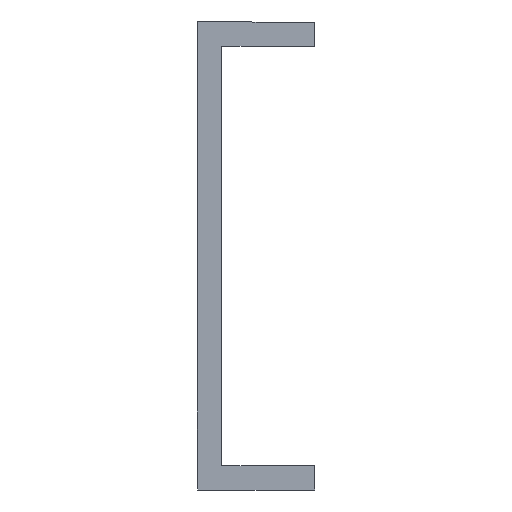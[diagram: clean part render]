
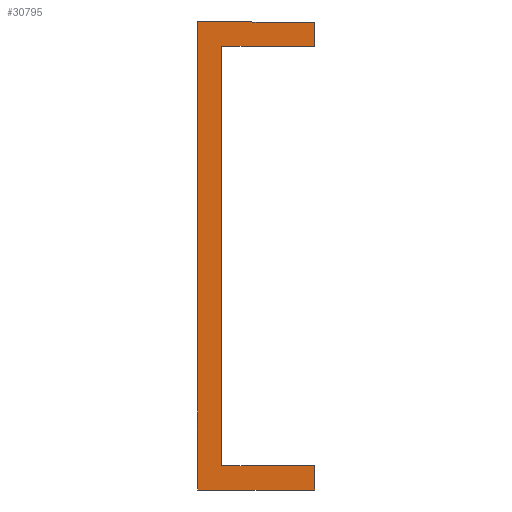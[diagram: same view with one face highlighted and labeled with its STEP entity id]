
A CAD part, front view. The second image highlights one B-rep face of the part: STEP entity #30795.
In plain terms, the highlighted planar face has unit normal (0, -1, 0).
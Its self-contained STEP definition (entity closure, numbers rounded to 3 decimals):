
#299 = VECTOR ( 'NONE', #27413, 1000. ) ;
#411 = CARTESIAN_POINT ( 'NONE',  ( -12., 0., -45.5 ) ) ;
#1205 = DIRECTION ( 'NONE',  ( -1., 0., 0. ) ) ;
#1394 = CARTESIAN_POINT ( 'NONE',  ( 0., 0., 0. ) ) ;
#2346 = VERTEX_POINT ( 'NONE', #40382 ) ;
#2582 = DIRECTION ( 'NONE',  ( 0., 0., -1. ) ) ;
#3087 = VECTOR ( 'NONE', #15240, 1000. ) ;
#5136 = DIRECTION ( 'NONE',  ( 0., 0., -1. ) ) ;
#5334 = ORIENTED_EDGE ( 'NONE', *, *, #57986, .F. ) ;
#5547 = PLANE ( 'NONE',  #39747 ) ;
#5977 = ORIENTED_EDGE ( 'NONE', *, *, #49731, .F. ) ;
#7157 = CARTESIAN_POINT ( 'NONE',  ( -12., 0., 2.5 ) ) ;
#10645 = LINE ( 'NONE', #32329, #52565 ) ;
#10676 = LINE ( 'NONE', #47232, #17004 ) ;
#12310 = LINE ( 'NONE', #31957, #299 ) ;
#12963 = FACE_OUTER_BOUND ( 'NONE', #34830, .T. ) ;
#13135 = EDGE_CURVE ( 'NONE', #15281, #47293, #32870, .T. ) ;
#13379 = VERTEX_POINT ( 'NONE', #48217 ) ;
#13456 = VERTEX_POINT ( 'NONE', #7157 ) ;
#14449 = CARTESIAN_POINT ( 'NONE',  ( -12., 0., 0. ) ) ;
#15240 = DIRECTION ( 'NONE',  ( 0., 0., 1. ) ) ;
#15281 = VERTEX_POINT ( 'NONE', #411 ) ;
#17004 = VECTOR ( 'NONE', #20059, 1000. ) ;
#18583 = CARTESIAN_POINT ( 'NONE',  ( -12., 0., 0. ) ) ;
#18652 = VERTEX_POINT ( 'NONE', #19818 ) ;
#19068 = VERTEX_POINT ( 'NONE', #18583 ) ;
#19646 = CARTESIAN_POINT ( 'NONE',  ( -24., 0., -45.5 ) ) ;
#19818 = CARTESIAN_POINT ( 'NONE',  ( -12., 0., -43. ) ) ;
#19864 = ORIENTED_EDGE ( 'NONE', *, *, #36522, .F. ) ;
#20059 = DIRECTION ( 'NONE',  ( 1., 0., 0. ) ) ;
#22563 = CARTESIAN_POINT ( 'NONE',  ( -21.5, 0., -45.5 ) ) ;
#23236 = VECTOR ( 'NONE', #2582, 1000. ) ;
#24501 = ORIENTED_EDGE ( 'NONE', *, *, #57553, .F. ) ;
#24808 = LINE ( 'NONE', #14449, #44671 ) ;
#25059 = ORIENTED_EDGE ( 'NONE', *, *, #48147, .F. ) ;
#25215 = CARTESIAN_POINT ( 'NONE',  ( -12., 0., -43. ) ) ;
#27413 = DIRECTION ( 'NONE',  ( 1., 0., 0. ) ) ;
#27879 = LINE ( 'NONE', #54211, #49130 ) ;
#28567 = DIRECTION ( 'NONE',  ( 0., -1., 0. ) ) ;
#30795 = ADVANCED_FACE ( 'NONE', ( #12963 ), #5547, .T. ) ;
#31372 = ORIENTED_EDGE ( 'NONE', *, *, #45305, .F. ) ;
#31957 = CARTESIAN_POINT ( 'NONE',  ( -12., 0., -43. ) ) ;
#32329 = CARTESIAN_POINT ( 'NONE',  ( -21.5, 0., 0. ) ) ;
#32870 = LINE ( 'NONE', #22563, #36483 ) ;
#34577 = CARTESIAN_POINT ( 'NONE',  ( -24., 0., -45.5 ) ) ;
#34830 = EDGE_LOOP ( 'NONE', ( #5977, #19864, #53441, #24501, #25059, #43197, #31372, #5334 ) ) ;
#36275 = DIRECTION ( 'NONE',  ( -1., 0., 0. ) ) ;
#36483 = VECTOR ( 'NONE', #36275, 1000. ) ;
#36522 = EDGE_CURVE ( 'NONE', #19068, #13379, #24808, .T. ) ;
#36602 = VERTEX_POINT ( 'NONE', #42436 ) ;
#37320 = DIRECTION ( 'NONE',  ( 0., 0., -1. ) ) ;
#38167 = LINE ( 'NONE', #25215, #23236 ) ;
#39747 = AXIS2_PLACEMENT_3D ( 'NONE', #1394, #28567, #37320 ) ;
#40382 = CARTESIAN_POINT ( 'NONE',  ( -24., 0., 2.5 ) ) ;
#42436 = CARTESIAN_POINT ( 'NONE',  ( -21.5, 0., -43. ) ) ;
#43197 = ORIENTED_EDGE ( 'NONE', *, *, #13135, .F. ) ;
#44325 = EDGE_CURVE ( 'NONE', #13456, #19068, #27879, .T. ) ;
#44671 = VECTOR ( 'NONE', #1205, 1000. ) ;
#45305 = EDGE_CURVE ( 'NONE', #18652, #15281, #38167, .T. ) ;
#47232 = CARTESIAN_POINT ( 'NONE',  ( 24., 0., 2.5 ) ) ;
#47293 = VERTEX_POINT ( 'NONE', #34577 ) ;
#48147 = EDGE_CURVE ( 'NONE', #47293, #2346, #49205, .T. ) ;
#48217 = CARTESIAN_POINT ( 'NONE',  ( -21.5, 0., 0. ) ) ;
#49130 = VECTOR ( 'NONE', #58218, 1000. ) ;
#49205 = LINE ( 'NONE', #19646, #3087 ) ;
#49731 = EDGE_CURVE ( 'NONE', #13379, #36602, #10645, .T. ) ;
#52565 = VECTOR ( 'NONE', #5136, 1000. ) ;
#53441 = ORIENTED_EDGE ( 'NONE', *, *, #44325, .F. ) ;
#54211 = CARTESIAN_POINT ( 'NONE',  ( -12., 0., 0. ) ) ;
#57553 = EDGE_CURVE ( 'NONE', #2346, #13456, #10676, .T. ) ;
#57986 = EDGE_CURVE ( 'NONE', #36602, #18652, #12310, .T. ) ;
#58218 = DIRECTION ( 'NONE',  ( 0., 0., -1. ) ) ;
